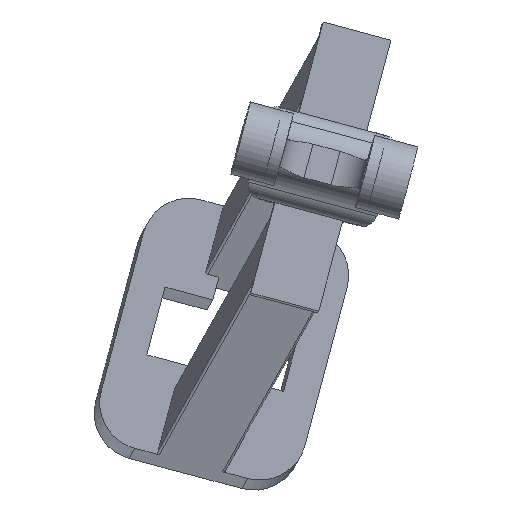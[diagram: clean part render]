
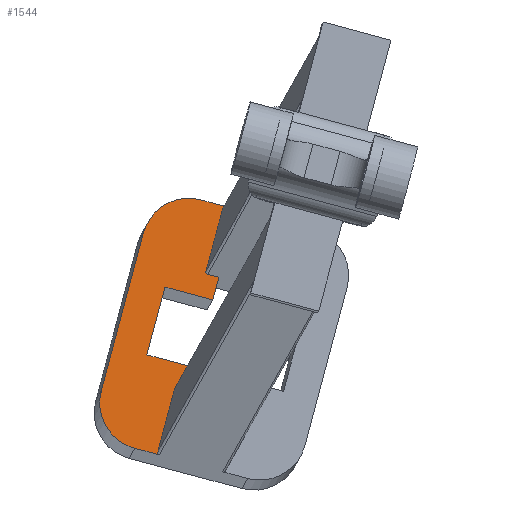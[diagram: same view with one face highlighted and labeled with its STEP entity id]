
A CAD part, top view. The second image highlights one B-rep face of the part: STEP entity #1544.
In plain terms, the highlighted planar face has unit normal (0.035, 0.06, 0.998).
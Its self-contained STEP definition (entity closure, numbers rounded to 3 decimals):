
#21 = ORIENTED_EDGE ( 'NONE', *, *, #2800, .T. ) ;
#29 = VERTEX_POINT ( 'NONE', #143 ) ;
#31 = VERTEX_POINT ( 'NONE', #3704 ) ;
#41 = VECTOR ( 'NONE', #99, 1000. ) ;
#49 = ORIENTED_EDGE ( 'NONE', *, *, #3155, .F. ) ;
#74 = ORIENTED_EDGE ( 'NONE', *, *, #1525, .T. ) ;
#75 = DIRECTION ( 'NONE',  ( -0.966, 0.259, 0.018 ) ) ;
#79 = DIRECTION ( 'NONE',  ( 0.257, 0.964, -0.067 ) ) ;
#86 = EDGE_CURVE ( 'NONE', #1683, #29, #3084, .T. ) ;
#98 = VERTEX_POINT ( 'NONE', #2561 ) ;
#99 = DIRECTION ( 'NONE',  ( -0.966, 0.259, 0.018 ) ) ;
#102 = CARTESIAN_POINT ( 'NONE',  ( 28.295, 39.811, -659.132 ) ) ;
#107 = PLANE ( 'NONE',  #1751 ) ;
#112 = CIRCLE ( 'NONE', #2011, 0.5 ) ;
#127 = CARTESIAN_POINT ( 'NONE',  ( 18.637, 42.397, -658.953 ) ) ;
#131 = EDGE_CURVE ( 'NONE', #2724, #31, #944, .T. ) ;
#134 = DIRECTION ( 'NONE',  ( -0.034, -0.06, -0.998 ) ) ;
#139 = ORIENTED_EDGE ( 'NONE', *, *, #771, .T. ) ;
#140 = LINE ( 'NONE', #1915, #41 ) ;
#143 = CARTESIAN_POINT ( 'NONE',  ( 16.068, 32.756, -658.287 ) ) ;
#144 = CARTESIAN_POINT ( 'NONE',  ( 23.203, -0.658, -656.531 ) ) ;
#149 = EDGE_CURVE ( 'NONE', #575, #210, #993, .T. ) ;
#177 = VECTOR ( 'NONE', #656, 1000. ) ;
#210 = VERTEX_POINT ( 'NONE', #3245 ) ;
#245 = AXIS2_PLACEMENT_3D ( 'NONE', #1595, #3355, #2178 ) ;
#265 = ORIENTED_EDGE ( 'NONE', *, *, #2531, .T. ) ;
#273 = EDGE_CURVE ( 'NONE', #3699, #3172, #3765, .T. ) ;
#279 = LINE ( 'NONE', #591, #3074 ) ;
#281 = LINE ( 'NONE', #2684, #3002 ) ;
#340 = EDGE_CURVE ( 'NONE', #431, #1240, #1944, .T. ) ;
#431 = VERTEX_POINT ( 'NONE', #3113 ) ;
#439 = DIRECTION ( 'NONE',  ( -0.966, 0.259, 0.018 ) ) ;
#441 = LINE ( 'NONE', #3415, #3265 ) ;
#455 = LINE ( 'NONE', #2239, #1882 ) ;
#498 = VECTOR ( 'NONE', #960, 1000. ) ;
#528 = ORIENTED_EDGE ( 'NONE', *, *, #149, .T. ) ;
#575 = VERTEX_POINT ( 'NONE', #2937 ) ;
#580 = EDGE_LOOP ( 'NONE', ( #139, #528, #74, #3027, #3018, #21, #1781, #979, #1836, #3507, #1868, #265, #2865, #49, #1794, #2212, #1766, #1259 ) ) ;
#591 = CARTESIAN_POINT ( 'NONE',  ( 16.792, 6.739, -656.753 ) ) ;
#607 = CARTESIAN_POINT ( 'NONE',  ( 27.03, 3.998, -656.942 ) ) ;
#631 = DIRECTION ( 'NONE',  ( 0.2, -0.978, 0.052 ) ) ;
#656 = DIRECTION ( 'NONE',  ( 0.257, 0.964, -0.067 ) ) ;
#664 = CARTESIAN_POINT ( 'NONE',  ( 18.994, -14.509, -655.556 ) ) ;
#713 = LINE ( 'NONE', #3721, #739 ) ;
#739 = VECTOR ( 'NONE', #79, 1000. ) ;
#760 = CARTESIAN_POINT ( 'NONE',  ( 32.168, 23.281, -658.275 ) ) ;
#765 = CARTESIAN_POINT ( 'NONE',  ( 32.168, 23.281, -658.275 ) ) ;
#767 = CARTESIAN_POINT ( 'NONE',  ( 20.646, 21.201, -657.753 ) ) ;
#771 = EDGE_CURVE ( 'NONE', #2415, #575, #441, .T. ) ;
#786 = CARTESIAN_POINT ( 'NONE',  ( 19.123, -14.027, -655.589 ) ) ;
#789 = CARTESIAN_POINT ( 'NONE',  ( 23.331, -0.176, -656.564 ) ) ;
#826 = EDGE_CURVE ( 'NONE', #1683, #31, #3209, .T. ) ;
#861 = DIRECTION ( 'NONE',  ( 0.966, -0.259, -0.018 ) ) ;
#944 = LINE ( 'NONE', #664, #3213 ) ;
#960 = DIRECTION ( 'NONE',  ( 0.257, 0.964, -0.067 ) ) ;
#963 = EDGE_CURVE ( 'NONE', #98, #3699, #140, .T. ) ;
#979 = ORIENTED_EDGE ( 'NONE', *, *, #826, .T. ) ;
#993 = CIRCLE ( 'NONE', #245, 0.5 ) ;
#998 = VECTOR ( 'NONE', #1038, 1000. ) ;
#1009 = DIRECTION ( 'NONE',  ( 0.034, 0.06, 0.998 ) ) ;
#1038 = DIRECTION ( 'NONE',  ( -0.257, -0.964, 0.067 ) ) ;
#1058 = CIRCLE ( 'NONE', #3731, 0.5 ) ;
#1155 = DIRECTION ( 'NONE',  ( 0.966, -0.259, -0.018 ) ) ;
#1196 = DIRECTION ( 'NONE',  ( -0.034, -0.06, -0.998 ) ) ;
#1240 = VERTEX_POINT ( 'NONE', #1255 ) ;
#1255 = CARTESIAN_POINT ( 'NONE',  ( 33.607, 38.389, -659.23 ) ) ;
#1259 = ORIENTED_EDGE ( 'NONE', *, *, #1560, .F. ) ;
#1308 = CIRCLE ( 'NONE', #2260, 10. ) ;
#1506 = VECTOR ( 'NONE', #2788, 1000. ) ;
#1508 = DIRECTION ( 'NONE',  ( -0.034, -0.06, -0.998 ) ) ;
#1525 = EDGE_CURVE ( 'NONE', #210, #431, #2807, .T. ) ;
#1544 = ADVANCED_FACE ( 'NONE', ( #2169 ), #107, .F. ) ;
#1560 = EDGE_CURVE ( 'NONE', #2415, #98, #1947, .T. ) ;
#1595 = CARTESIAN_POINT ( 'NONE',  ( 29.882, 24.409, -658.264 ) ) ;
#1632 = AXIS2_PLACEMENT_3D ( 'NONE', #2790, #1508, #2189 ) ;
#1671 = VERTEX_POINT ( 'NONE', #789 ) ;
#1683 = VERTEX_POINT ( 'NONE', #2976 ) ;
#1707 = CARTESIAN_POINT ( 'NONE',  ( 22.72, -0.529, -656.522 ) ) ;
#1751 = AXIS2_PLACEMENT_3D ( 'NONE', #3698, #134, #75 ) ;
#1766 = ORIENTED_EDGE ( 'NONE', *, *, #963, .F. ) ;
#1781 = ORIENTED_EDGE ( 'NONE', *, *, #86, .F. ) ;
#1794 = ORIENTED_EDGE ( 'NONE', *, *, #2952, .F. ) ;
#1807 = VECTOR ( 'NONE', #3759, 1000. ) ;
#1836 = ORIENTED_EDGE ( 'NONE', *, *, #131, .F. ) ;
#1860 = DIRECTION ( 'NONE',  ( 0.2, -0.978, 0.052 ) ) ;
#1868 = ORIENTED_EDGE ( 'NONE', *, *, #2674, .T. ) ;
#1882 = VECTOR ( 'NONE', #1931, 1000. ) ;
#1915 = CARTESIAN_POINT ( 'NONE',  ( 30.884, 18.46, -657.942 ) ) ;
#1931 = DIRECTION ( 'NONE',  ( 0.966, -0.259, -0.018 ) ) ;
#1944 = CIRCLE ( 'NONE', #1632, 0.5 ) ;
#1947 = LINE ( 'NONE', #2506, #1506 ) ;
#2011 = AXIS2_PLACEMENT_3D ( 'NONE', #144, #2562, #3763 ) ;
#2037 = VERTEX_POINT ( 'NONE', #607 ) ;
#2063 = EDGE_CURVE ( 'NONE', #2724, #2852, #1058, .T. ) ;
#2122 = DIRECTION ( 'NONE',  ( 0.034, 0.06, 0.998 ) ) ;
#2169 = FACE_OUTER_BOUND ( 'NONE', #580, .T. ) ;
#2178 = DIRECTION ( 'NONE',  ( 0.2, -0.978, 0.052 ) ) ;
#2189 = DIRECTION ( 'NONE',  ( 0.2, -0.978, 0.052 ) ) ;
#2212 = ORIENTED_EDGE ( 'NONE', *, *, #273, .F. ) ;
#2239 = CARTESIAN_POINT ( 'NONE',  ( 47.612, 34.64, -659.489 ) ) ;
#2258 = CARTESIAN_POINT ( 'NONE',  ( 25.746, -0.823, -656.609 ) ) ;
#2260 = AXIS2_PLACEMENT_3D ( 'NONE', #3377, #2122, #1860 ) ;
#2415 = VERTEX_POINT ( 'NONE', #765 ) ;
#2504 = EDGE_CURVE ( 'NONE', #3749, #1240, #455, .T. ) ;
#2506 = CARTESIAN_POINT ( 'NONE',  ( 32.168, 23.281, -658.275 ) ) ;
#2507 = VERTEX_POINT ( 'NONE', #2258 ) ;
#2527 = CARTESIAN_POINT ( 'NONE',  ( 16.734, -3.575, -656.133 ) ) ;
#2531 = EDGE_CURVE ( 'NONE', #2702, #1671, #112, .T. ) ;
#2561 = CARTESIAN_POINT ( 'NONE',  ( 30.884, 18.46, -657.942 ) ) ;
#2562 = DIRECTION ( 'NONE',  ( -0.034, -0.06, -0.998 ) ) ;
#2617 = CARTESIAN_POINT ( 'NONE',  ( 20.646, 21.201, -657.753 ) ) ;
#2674 = EDGE_CURVE ( 'NONE', #2852, #2702, #713, .T. ) ;
#2684 = CARTESIAN_POINT ( 'NONE',  ( 23.331, -0.176, -656.564 ) ) ;
#2702 = VERTEX_POINT ( 'NONE', #1707 ) ;
#2724 = VERTEX_POINT ( 'NONE', #3588 ) ;
#2788 = DIRECTION ( 'NONE',  ( -0.257, -0.964, 0.067 ) ) ;
#2790 = CARTESIAN_POINT ( 'NONE',  ( 33.479, 37.907, -659.197 ) ) ;
#2800 = EDGE_CURVE ( 'NONE', #3749, #29, #1308, .T. ) ;
#2807 = LINE ( 'NONE', #3711, #177 ) ;
#2852 = VERTEX_POINT ( 'NONE', #786 ) ;
#2865 = ORIENTED_EDGE ( 'NONE', *, *, #3357, .T. ) ;
#2937 = CARTESIAN_POINT ( 'NONE',  ( 29.754, 23.927, -658.231 ) ) ;
#2952 = EDGE_CURVE ( 'NONE', #3172, #2037, #279, .T. ) ;
#2976 = CARTESIAN_POINT ( 'NONE',  ( 7.076, -0.989, -655.954 ) ) ;
#3002 = VECTOR ( 'NONE', #1155, 1000. ) ;
#3018 = ORIENTED_EDGE ( 'NONE', *, *, #2504, .F. ) ;
#3027 = ORIENTED_EDGE ( 'NONE', *, *, #340, .T. ) ;
#3074 = VECTOR ( 'NONE', #861, 1000. ) ;
#3084 = LINE ( 'NONE', #127, #498 ) ;
#3113 = CARTESIAN_POINT ( 'NONE',  ( 32.996, 38.036, -659.188 ) ) ;
#3123 = DIRECTION ( 'NONE',  ( 0.2, -0.978, 0.052 ) ) ;
#3155 = EDGE_CURVE ( 'NONE', #2037, #2507, #3780, .T. ) ;
#3172 = VERTEX_POINT ( 'NONE', #3539 ) ;
#3209 = CIRCLE ( 'NONE', #3584, 10. ) ;
#3213 = VECTOR ( 'NONE', #439, 1000. ) ;
#3245 = CARTESIAN_POINT ( 'NONE',  ( 29.399, 24.538, -658.255 ) ) ;
#3265 = VECTOR ( 'NONE', #3474, 1000. ) ;
#3331 = CARTESIAN_POINT ( 'NONE',  ( 19.606, -14.156, -655.598 ) ) ;
#3355 = DIRECTION ( 'NONE',  ( -0.034, -0.06, -0.998 ) ) ;
#3357 = EDGE_CURVE ( 'NONE', #1671, #2507, #281, .T. ) ;
#3377 = CARTESIAN_POINT ( 'NONE',  ( 25.726, 30.17, -658.466 ) ) ;
#3415 = CARTESIAN_POINT ( 'NONE',  ( 43.275, 20.307, -658.481 ) ) ;
#3474 = DIRECTION ( 'NONE',  ( -0.966, 0.259, 0.018 ) ) ;
#3507 = ORIENTED_EDGE ( 'NONE', *, *, #2063, .T. ) ;
#3539 = CARTESIAN_POINT ( 'NONE',  ( 16.792, 6.739, -656.753 ) ) ;
#3584 = AXIS2_PLACEMENT_3D ( 'NONE', #2527, #1009, #3123 ) ;
#3588 = CARTESIAN_POINT ( 'NONE',  ( 19.477, -14.638, -655.565 ) ) ;
#3698 = CARTESIAN_POINT ( 'NONE',  ( 33.479, 37.907, -659.197 ) ) ;
#3699 = VERTEX_POINT ( 'NONE', #2617 ) ;
#3704 = CARTESIAN_POINT ( 'NONE',  ( 14.165, -13.216, -655.467 ) ) ;
#3711 = CARTESIAN_POINT ( 'NONE',  ( 29.399, 24.538, -658.255 ) ) ;
#3721 = CARTESIAN_POINT ( 'NONE',  ( 19.123, -14.027, -655.589 ) ) ;
#3731 = AXIS2_PLACEMENT_3D ( 'NONE', #3331, #1196, #631 ) ;
#3749 = VERTEX_POINT ( 'NONE', #102 ) ;
#3759 = DIRECTION ( 'NONE',  ( -0.257, -0.964, 0.067 ) ) ;
#3763 = DIRECTION ( 'NONE',  ( 0.2, -0.978, 0.052 ) ) ;
#3765 = LINE ( 'NONE', #767, #998 ) ;
#3780 = LINE ( 'NONE', #760, #1807 ) ;
